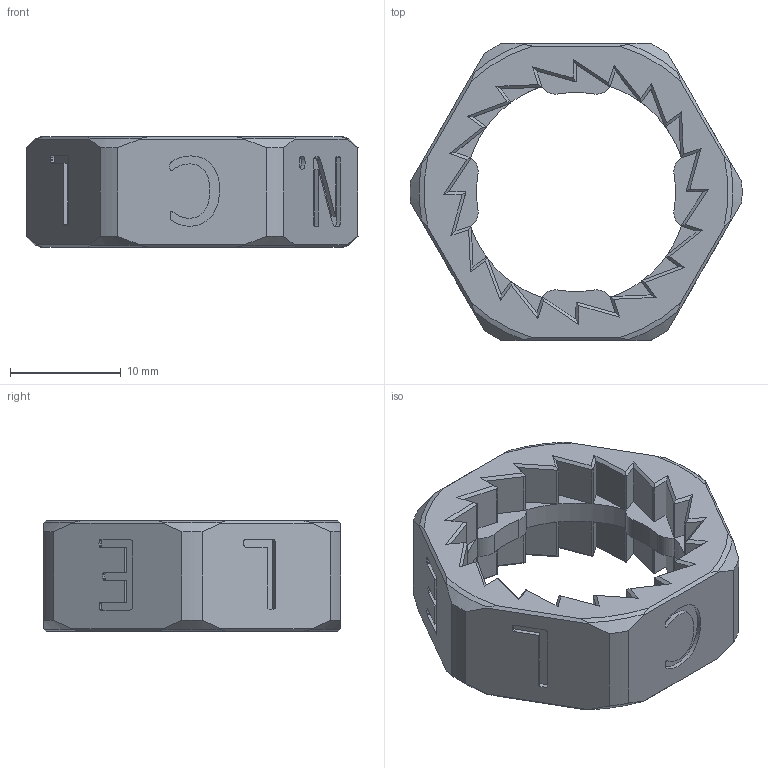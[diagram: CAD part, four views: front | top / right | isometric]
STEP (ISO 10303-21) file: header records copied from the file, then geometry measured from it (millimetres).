
FILE_DESCRIPTION( ( 'Unknown' ), '1' );
FILE_NAME( 'C:/Users/kcleven/Desktop/printer/ratchet/handle-less.stp', 'Unknown', ( 'Unknown' ), ( 'Unknown' ), 'PSStep 16.0.42', 'Unknown', ' ' );
FILE_SCHEMA( ( 'AUTOMOTIVE_DESIGN { 1 0 10303 214 1 1 1 1 }' ) );
Length unit declared in the file: millimetre
Products named in the file (1): 1
Bounding box: 29.99 x 26.85 x 10 mm (x, y, z)
Volume: 2739 mm3; surface area: 2515.6 mm2
Topology: 1 solids, 1 shells, 347 faces, 942 edges, 604 vertices
Faces by surface type: plane 229, extrusion 56, cylinder 38, cone 24
Entity records: 15257 total; most frequent: CARTESIAN_POINT 3987, ORIENTED_EDGE 1882, DIRECTION 1557, EDGE_CURVE 941, VECTOR 613, VERTEX_POINT 604, LINE 557, AXIS2_PLACEMENT_3D 472
